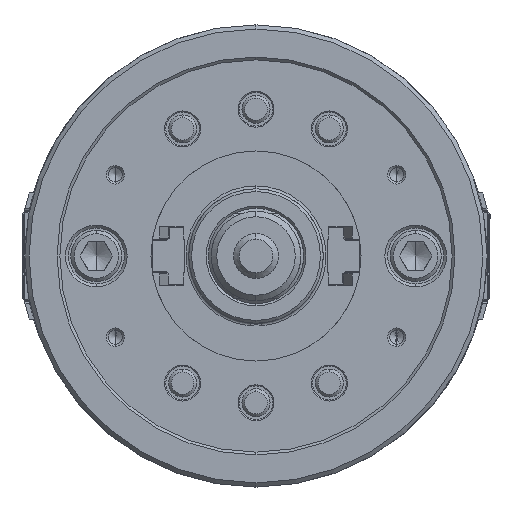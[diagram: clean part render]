
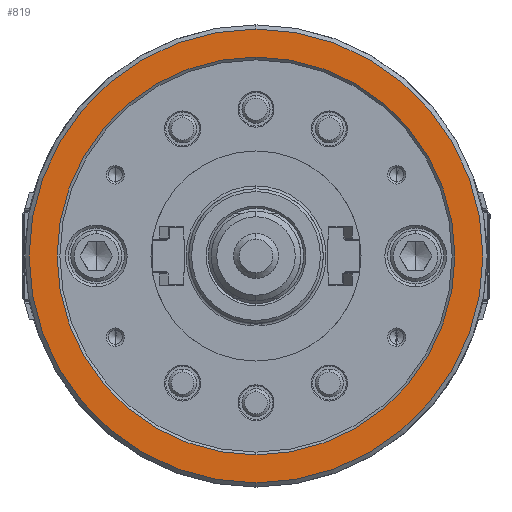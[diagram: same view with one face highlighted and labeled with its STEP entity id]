
A CAD part, left-side view. The second image highlights one B-rep face of the part: STEP entity #819.
In plain terms, the highlighted planar face has unit normal (-1, 0, 0).
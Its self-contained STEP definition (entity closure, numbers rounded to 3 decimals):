
#819 = ADVANCED_FACE ( 'NONE', ( #81076, #36426 ), #36013, .F. ) ;
#5976 = CARTESIAN_POINT ( 'NONE',  ( -74., 0., 0. ) ) ;
#8349 = EDGE_LOOP ( 'NONE', ( #65495, #34911 ) ) ;
#9334 = ORIENTED_EDGE ( 'NONE', *, *, #11638, .F. ) ;
#9369 = CIRCLE ( 'NONE', #75276, 81. ) ;
#9407 = EDGE_CURVE ( 'NONE', #61006, #79628, #62995, .T. ) ;
#11638 = EDGE_CURVE ( 'NONE', #76025, #37087, #9369, .T. ) ;
#18447 = DIRECTION ( 'NONE',  ( 0., 0., -1. ) ) ;
#18773 = CARTESIAN_POINT ( 'NONE',  ( -74., 0., 71. ) ) ;
#23143 = DIRECTION ( 'NONE',  ( 1., 0., 0. ) ) ;
#23399 = DIRECTION ( 'NONE',  ( 1., 0., 0. ) ) ;
#25678 = DIRECTION ( 'NONE',  ( 0., 0., -1. ) ) ;
#26069 = CIRCLE ( 'NONE', #77159, 81. ) ;
#26141 = CIRCLE ( 'NONE', #31482, 71. ) ;
#31482 = AXIS2_PLACEMENT_3D ( 'NONE', #83365, #70324, #25678 ) ;
#34911 = ORIENTED_EDGE ( 'NONE', *, *, #9407, .T. ) ;
#36013 = PLANE ( 'NONE',  #69497 ) ;
#36426 = FACE_BOUND ( 'NONE', #8349, .T. ) ;
#37087 = VERTEX_POINT ( 'NONE', #59700 ) ;
#37972 = DIRECTION ( 'NONE',  ( 1., 0., 0. ) ) ;
#40080 = EDGE_CURVE ( 'NONE', #37087, #76025, #26069, .T. ) ;
#43697 = CARTESIAN_POINT ( 'NONE',  ( -74., 0., 0. ) ) ;
#48348 = EDGE_CURVE ( 'NONE', #79628, #61006, #26141, .T. ) ;
#56170 = DIRECTION ( 'NONE',  ( 0., 0., -1. ) ) ;
#56948 = ORIENTED_EDGE ( 'NONE', *, *, #40080, .F. ) ;
#57559 = AXIS2_PLACEMENT_3D ( 'NONE', #5976, #77158, #58165 ) ;
#58165 = DIRECTION ( 'NONE',  ( 0., 0., -1. ) ) ;
#59700 = CARTESIAN_POINT ( 'NONE',  ( -74., 0., 81. ) ) ;
#61006 = VERTEX_POINT ( 'NONE', #83105 ) ;
#62094 = CARTESIAN_POINT ( 'NONE',  ( -74., -81., 0. ) ) ;
#62995 = CIRCLE ( 'NONE', #57559, 71. ) ;
#65377 = CARTESIAN_POINT ( 'NONE',  ( -74., 0., -81. ) ) ;
#65495 = ORIENTED_EDGE ( 'NONE', *, *, #48348, .T. ) ;
#65875 = EDGE_LOOP ( 'NONE', ( #9334, #56948 ) ) ;
#69497 = AXIS2_PLACEMENT_3D ( 'NONE', #62094, #23399, #56170 ) ;
#70324 = DIRECTION ( 'NONE',  ( 1., 0., 0. ) ) ;
#70407 = CARTESIAN_POINT ( 'NONE',  ( -74., 0., 0. ) ) ;
#75276 = AXIS2_PLACEMENT_3D ( 'NONE', #70407, #37972, #76705 ) ;
#76025 = VERTEX_POINT ( 'NONE', #65377 ) ;
#76705 = DIRECTION ( 'NONE',  ( 0., 0., -1. ) ) ;
#77158 = DIRECTION ( 'NONE',  ( 1., 0., 0. ) ) ;
#77159 = AXIS2_PLACEMENT_3D ( 'NONE', #43697, #23143, #18447 ) ;
#79628 = VERTEX_POINT ( 'NONE', #18773 ) ;
#81076 = FACE_OUTER_BOUND ( 'NONE', #65875, .T. ) ;
#83105 = CARTESIAN_POINT ( 'NONE',  ( -74., 0., -71. ) ) ;
#83365 = CARTESIAN_POINT ( 'NONE',  ( -74., 0., 0. ) ) ;
